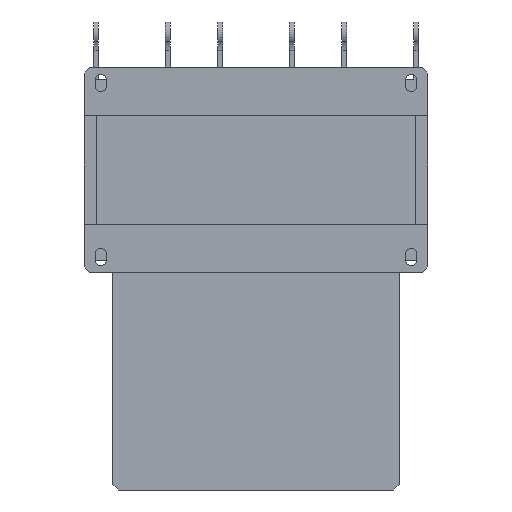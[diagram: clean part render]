
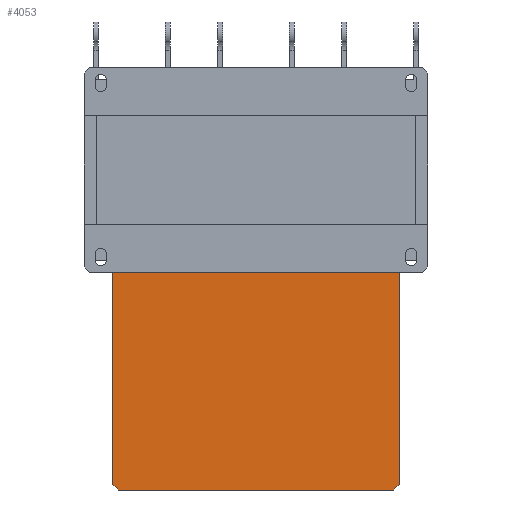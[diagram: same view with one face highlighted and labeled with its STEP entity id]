
A CAD part, front view. The second image highlights one B-rep face of the part: STEP entity #4053.
In plain terms, the highlighted planar face has unit normal (0, -1, 0).
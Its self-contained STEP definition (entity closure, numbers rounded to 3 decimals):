
#489=FACE_OUTER_BOUND('',#751,.T.);
#751=EDGE_LOOP('',(#3454,#3455,#3456,#3457,#3458,#3459));
#1112=LINE('',#6587,#1526);
#1118=LINE('',#6598,#1532);
#1124=LINE('',#6610,#1538);
#1128=LINE('',#6618,#1542);
#1129=LINE('',#6621,#1543);
#1133=LINE('',#6628,#1547);
#1526=VECTOR('',#5397,10.);
#1532=VECTOR('',#5405,10.);
#1538=VECTOR('',#5415,10.);
#1542=VECTOR('',#5421,10.);
#1543=VECTOR('',#5424,10.);
#1547=VECTOR('',#5430,10.);
#1922=VERTEX_POINT('',#6585);
#1923=VERTEX_POINT('',#6586);
#1927=VERTEX_POINT('',#6596);
#1931=VERTEX_POINT('',#6608);
#1934=VERTEX_POINT('',#6616);
#1935=VERTEX_POINT('',#6620);
#2434=EDGE_CURVE('',#1922,#1923,#1112,.T.);
#2440=EDGE_CURVE('',#1922,#1927,#1118,.T.);
#2446=EDGE_CURVE('',#1931,#1927,#1124,.T.);
#2450=EDGE_CURVE('',#1934,#1931,#1128,.T.);
#2451=EDGE_CURVE('',#1923,#1935,#1129,.T.);
#2455=EDGE_CURVE('',#1934,#1935,#1133,.T.);
#3454=ORIENTED_EDGE('',*,*,#2434,.F.);
#3455=ORIENTED_EDGE('',*,*,#2440,.T.);
#3456=ORIENTED_EDGE('',*,*,#2446,.F.);
#3457=ORIENTED_EDGE('',*,*,#2450,.F.);
#3458=ORIENTED_EDGE('',*,*,#2455,.T.);
#3459=ORIENTED_EDGE('',*,*,#2451,.F.);
#3841=PLANE('',#4448);
#4053=ADVANCED_FACE('',(#489),#3841,.T.);
#4448=AXIS2_PLACEMENT_3D('',#6633,#5437,#5438);
#5397=DIRECTION('',(-0.707,0.,0.707));
#5405=DIRECTION('',(1.,0.,0.));
#5415=DIRECTION('',(-0.707,0.,-0.707));
#5421=DIRECTION('',(0.,0.,-1.));
#5424=DIRECTION('',(0.,0.,1.));
#5430=DIRECTION('',(-1.,0.,0.));
#5437=DIRECTION('center_axis',(0.,-1.,0.));
#5438=DIRECTION('ref_axis',(0.,0.,-1.));
#6585=CARTESIAN_POINT('',(-144.,34.,-335.));
#6586=CARTESIAN_POINT('',(-150.,34.,-329.));
#6587=CARTESIAN_POINT('',(-176.875,34.,-302.125));
#6596=CARTESIAN_POINT('',(144.,34.,-335.));
#6598=CARTESIAN_POINT('',(0.,34.,-335.));
#6608=CARTESIAN_POINT('',(150.,34.,-329.));
#6610=CARTESIAN_POINT('',(176.875,34.,-302.125));
#6616=CARTESIAN_POINT('',(150.,34.,-65.5));
#6618=CARTESIAN_POINT('',(150.,34.,-65.5));
#6620=CARTESIAN_POINT('',(-150.,34.,-65.5));
#6621=CARTESIAN_POINT('',(-150.,34.,-65.5));
#6628=CARTESIAN_POINT('',(0.,34.,-65.5));
#6633=CARTESIAN_POINT('Origin',(0.,34.,-65.5));
